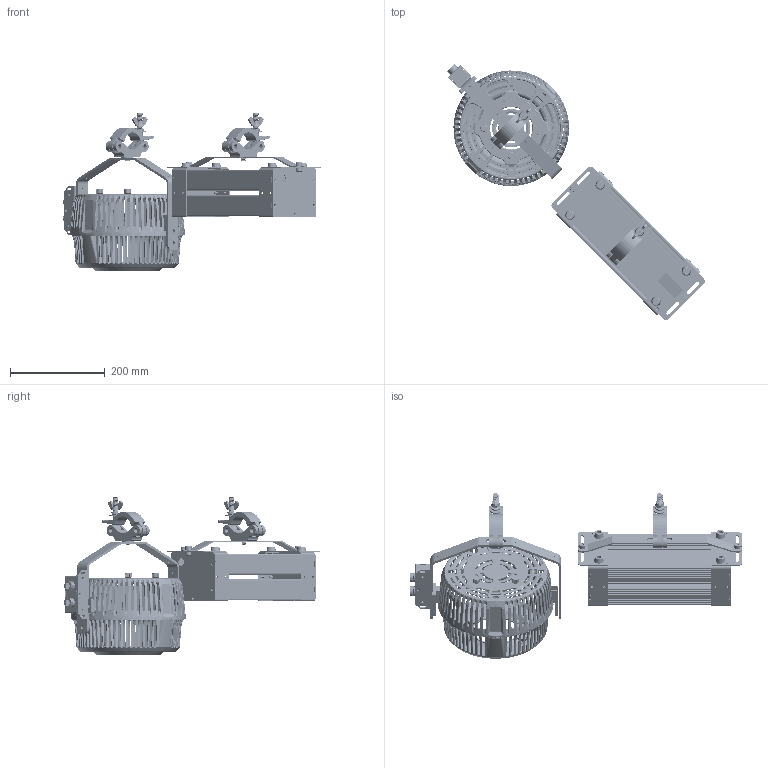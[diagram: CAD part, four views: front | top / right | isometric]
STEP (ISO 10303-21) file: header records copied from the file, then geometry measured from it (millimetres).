
FILE_DESCRIPTION (( 'STEP AP214' ), '1' );
FILE_NAME ('W2KX-CLP.STEP', '2024-01-31T02:02:05', ( '' ), ( '' ), 'SwSTEP 2.0', 'SolidWorks 2022', '' );
FILE_SCHEMA (( 'AUTOMOTIVE_DESIGN' ));
Length unit declared in the file: millimetre
Products named in the file (26): 5022496_X2_Yoke Adapter___; TOP COVER_X2___; 5022530-2022-01-10___; 5021745-200429010465_Plastic Foot, GL-4A, OD20 ID4.2 H10.4, Black___; 5022654-XXX_A1_Sheet Metal Part-C, 130x2x103.4mm___; RJ45_WaterProof_3352I02029-PCB Housing___; 5021926_A1_KNOB, 18T, OD=14.9, ID=6, L=10MM___; HLG-480H_Power Supply___; 5021736-006_A2_Aluminum Hook, M12_Original; SCREW, M8 L8 CAP HEAD, HEX SOCKET, SUS, BLACK___; 5022495-XXX_A3_Yoke, 275x30x195mm___; 5022654-XXX_A1_Sheet Metal Part-C, 130x2x103.4mm_AC; W2K 277V Power Supply_TYPE-B; 62280-3364010 SCREW, M4 L10 PAN HEAD, HEX SOCKET, Threadlocking, SUS, BLACK___; 5022499_X2_Single Arm Pivot Base___; 5022650-XXX_A2_HandBar for 277V, 346.7x25x23mm___; CLP+TOKE___; 62280-2163008 SCREW, M3 L8 FLAT HEAD, TORX, SUS, BLACK___; 5022652-XXX_A1_Sheet Metal Part-A, 120x2x65mm___; DMX Signal Cable_X2___; 5022531_X1_BOTTOM HOUSING FOR W2K&A2K; RJ45_WaterProof_3352I02029___; W2KX-CLP; Top Assembly W2K_20220609_15; 5022653-XXX_A1_Sheet Metal Part-B, 130x40x103.4mm___; BOTTOM COVER_X2___
Assembly tree (45 placements, depth 5):
  W2KX-CLP
    Top Assembly W2K_20220609_15
      DMX Signal Cable_X2___
        BOTTOM COVER_X2___
        TOP COVER_X2___
        RJ45_WaterProof_3352I02029___  x2
          RJ45_WaterProof_3352I02029-PCB Housing___
      CLP+TOKE___
        5021736-006_A2_Aluminum Hook, M12_Original
        5022495-XXX_A3_Yoke, 275x30x195mm___
      5022531_X1_BOTTOM HOUSING FOR W2K&A2K
      5022496_X2_Yoke Adapter___  x2
      5022530-2022-01-10___
      5021926_A1_KNOB, 18T, OD=14.9, ID=6, L=10MM___  x2
      SCREW, M8 L8 CAP HEAD, HEX SOCKET, SUS, BLACK___
      5022499_X2_Single Arm Pivot Base___
    W2K 277V Power Supply_TYPE-B
      HLG-480H_Power Supply___  x2
      5022653-XXX_A1_Sheet Metal Part-B, 130x40x103.4mm___  x2
      5022652-XXX_A1_Sheet Metal Part-A, 120x2x65mm___  x2
      5022654-XXX_A1_Sheet Metal Part-C, 130x2x103.4mm___
      62280-3364010 SCREW, M4 L10 PAN HEAD, HEX SOCKET, Threadlocking, SUS, BLACK___  x4
      5022654-XXX_A1_Sheet Metal Part-C, 130x2x103.4mm_AC
      62280-2163008 SCREW, M3 L8 FLAT HEAD, TORX, SUS, BLACK___  x6
      5021745-200429010465_Plastic Foot, GL-4A, OD20 ID4.2 H10.4, Black___  x4
      5022650-XXX_A2_HandBar for 277V, 346.7x25x23mm___
      SCREW, M8 L8 CAP HEAD, HEX SOCKET, SUS, BLACK___  x2
      5021736-006_A2_Aluminum Hook, M12_Original
Bounding box: 543.22 x 539.4 x 331.76 mm (x, y, z)
Volume: 3318470.1 mm3; surface area: 906416.4 mm2
Topology: 54 solids, 54 shells, 7814 faces, 20872 edges, 12981 vertices
Faces by surface type: bspline 2427, plane 2211, cylinder 2053, torus 557, cone 530, sphere 36
Entity records: 370156 total; most frequent: CARTESIAN_POINT 205076, ORIENTED_EDGE 32660, DIRECTION 22445, EDGE_CURVE 16330, VERTEX_POINT 10023, AXIS2_PLACEMENT_3D 9118, B_SPLINE_CURVE_WITH_KNOTS 6568, EDGE_LOOP 6519
